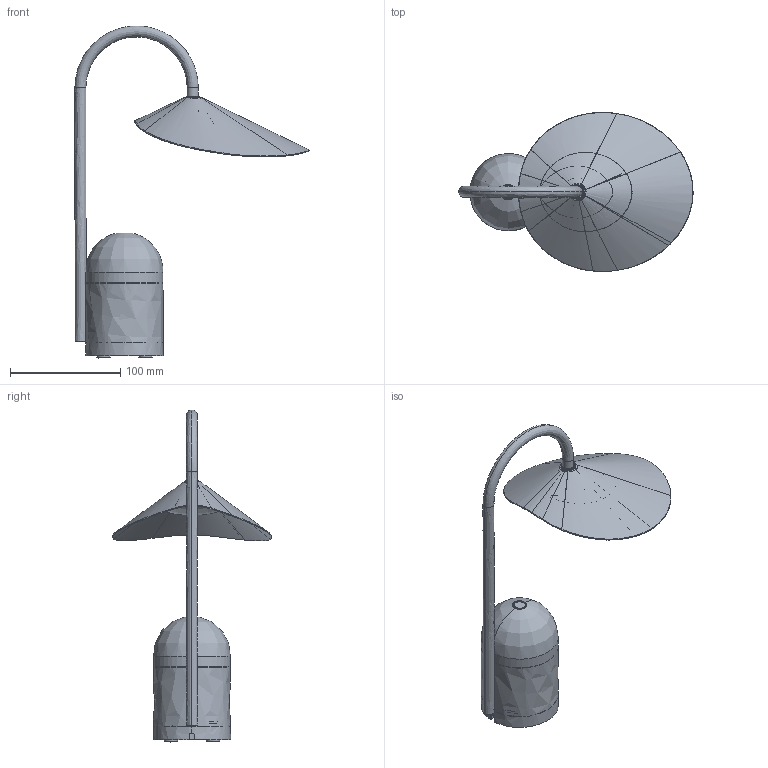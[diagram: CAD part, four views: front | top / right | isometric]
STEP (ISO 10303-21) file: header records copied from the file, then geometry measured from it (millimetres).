
FILE_DESCRIPTION(/* description */ (''),/* implementation_level */ '2;1');
FILE_NAME(/* name */ 'Arum Portable Lamp_3D',/* time_stamp */ '2024-03-06T12:35:38+01:00',/* author */ (''),/* organization */ (''),/* preprocessor_version */ 'ST-DEVELOPER v16.5',/* originating_system */ 'Rhino 7.36',/* authorisation */ '');
FILE_SCHEMA (('CONFIG_CONTROL_DESIGN'));
Length unit declared in the file: millimetre
Products named in the file (14): Document; 18650X2_25; PRT00056; PCB-11_6; JUEYUANJIAN23; PRODUCT_6048_ASM-469; FSG; O-RING; PZK4; GAI; LED-R10_A; _DOCUMENT_A12_A; DENGZAO-1013; DIANP78
Assembly tree (16 placements, depth 2):
  Document
    18650X2_25
    PRT00056  x4
    PCB-11_6
    JUEYUANJIAN23
    PRODUCT_6048_ASM-469
    FSG
    O-RING
    PZK4
    GAI
    LED-R10_A
    _DOCUMENT_A12_A
    DENGZAO-1013
    DIANP78
Bounding box: 212.85 x 144.6 x 301.71 mm (x, y, z)
Volume: 186137.2 mm3; surface area: 209737.8 mm2
Topology: 17 solids, 21 shells, 753 faces, 1892 edges, 1224 vertices
Faces by surface type: plane 312, bspline 244, cylinder 197
Entity records: 86501 total; most frequent: CARTESIAN_POINT 72803, ORIENTED_EDGE 3703, EDGE_CURVE 1874, B_SPLINE_CURVE_WITH_KNOTS 1330, VERTEX_POINT 1212, EDGE_LOOP 845, ADVANCED_FACE 741, FACE_OUTER_BOUND 741
